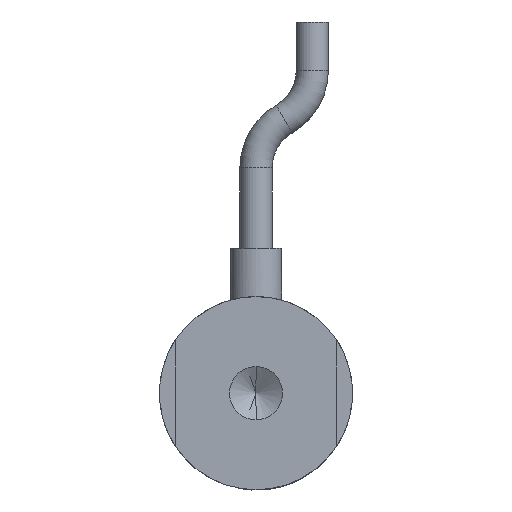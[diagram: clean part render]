
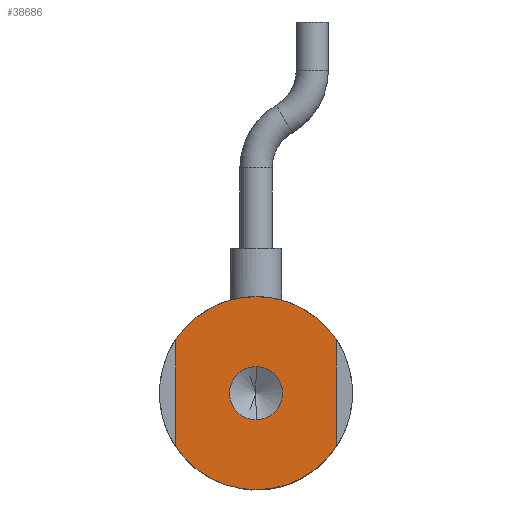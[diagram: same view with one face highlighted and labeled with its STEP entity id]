
A CAD part, front view. The second image highlights one B-rep face of the part: STEP entity #38686.
In plain terms, the highlighted planar face has unit normal (0, -1, 0).
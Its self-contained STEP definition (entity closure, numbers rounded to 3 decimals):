
#30 = CARTESIAN_POINT ( 'NONE',  ( 5., 0., -3.317 ) ) ;
#2606 = CARTESIAN_POINT ( 'NONE',  ( 0., 0., 0. ) ) ;
#2829 = AXIS2_PLACEMENT_3D ( 'NONE', #36470, #16550, #39848 ) ;
#3749 = CARTESIAN_POINT ( 'NONE',  ( 0., 0., 0. ) ) ;
#4436 = VERTEX_POINT ( 'NONE', #26939 ) ;
#4518 = CARTESIAN_POINT ( 'NONE',  ( 0., 0., 0. ) ) ;
#5177 = PLANE ( 'NONE',  #37243 ) ;
#5474 = CARTESIAN_POINT ( 'NONE',  ( 0., 0., -1.65 ) ) ;
#5510 = CARTESIAN_POINT ( 'NONE',  ( 0., 0., 1.65 ) ) ;
#5980 = DIRECTION ( 'NONE',  ( 0., 0., 1. ) ) ;
#7092 = DIRECTION ( 'NONE',  ( 0., 1., 0. ) ) ;
#7120 = VERTEX_POINT ( 'NONE', #16242 ) ;
#7164 = DIRECTION ( 'NONE',  ( 0., 0., -1. ) ) ;
#7207 = VERTEX_POINT ( 'NONE', #14352 ) ;
#7958 = DIRECTION ( 'NONE',  ( 0., 0., 1. ) ) ;
#8941 = CARTESIAN_POINT ( 'NONE',  ( 0., 0., -6. ) ) ;
#8977 = EDGE_LOOP ( 'NONE', ( #9700, #16987 ) ) ;
#9608 = CIRCLE ( 'NONE', #11398, 6. ) ;
#9700 = ORIENTED_EDGE ( 'NONE', *, *, #11700, .F. ) ;
#10585 = DIRECTION ( 'NONE',  ( 0., -1., 0. ) ) ;
#11125 = CIRCLE ( 'NONE', #37663, 6. ) ;
#11398 = AXIS2_PLACEMENT_3D ( 'NONE', #2606, #26078, #5980 ) ;
#11700 = EDGE_CURVE ( 'NONE', #23261, #26096, #20899, .T. ) ;
#13580 = VECTOR ( 'NONE', #29323, 1000. ) ;
#14186 = EDGE_CURVE ( 'NONE', #7207, #14272, #22398, .T. ) ;
#14272 = VERTEX_POINT ( 'NONE', #30 ) ;
#14352 = CARTESIAN_POINT ( 'NONE',  ( 5., 0., 3.317 ) ) ;
#15195 = DIRECTION ( 'NONE',  ( 0., 0., 1. ) ) ;
#15288 = EDGE_LOOP ( 'NONE', ( #29946, #43096, #35008, #40537, #38458, #41508 ) ) ;
#15399 = DIRECTION ( 'NONE',  ( 0., 0., 1. ) ) ;
#16242 = CARTESIAN_POINT ( 'NONE',  ( -5., 0., -3.317 ) ) ;
#16550 = DIRECTION ( 'NONE',  ( 0., 1., 0. ) ) ;
#16987 = ORIENTED_EDGE ( 'NONE', *, *, #34561, .F. ) ;
#17326 = AXIS2_PLACEMENT_3D ( 'NONE', #30490, #10585, #33840 ) ;
#20899 = CIRCLE ( 'NONE', #28990, 1.65 ) ;
#21915 = EDGE_CURVE ( 'NONE', #7120, #4436, #33757, .T. ) ;
#22398 = LINE ( 'NONE', #22607, #13580 ) ;
#22607 = CARTESIAN_POINT ( 'NONE',  ( 5., 0., 0. ) ) ;
#23261 = VERTEX_POINT ( 'NONE', #5474 ) ;
#25109 = CIRCLE ( 'NONE', #17326, 1.65 ) ;
#25608 = AXIS2_PLACEMENT_3D ( 'NONE', #4518, #28006, #7958 ) ;
#26078 = DIRECTION ( 'NONE',  ( 0., 1., 0. ) ) ;
#26096 = VERTEX_POINT ( 'NONE', #5510 ) ;
#26939 = CARTESIAN_POINT ( 'NONE',  ( -5., 0., 3.317 ) ) ;
#27184 = CARTESIAN_POINT ( 'NONE',  ( 0., 0., 0. ) ) ;
#27264 = DIRECTION ( 'NONE',  ( 0., -1., 0. ) ) ;
#28006 = DIRECTION ( 'NONE',  ( 0., 1., 0. ) ) ;
#28657 = CARTESIAN_POINT ( 'NONE',  ( 0., 0., 0. ) ) ;
#28990 = AXIS2_PLACEMENT_3D ( 'NONE', #3749, #27264, #7164 ) ;
#29323 = DIRECTION ( 'NONE',  ( 0., 0., -1. ) ) ;
#29443 = CIRCLE ( 'NONE', #25608, 6. ) ;
#29946 = ORIENTED_EDGE ( 'NONE', *, *, #21915, .F. ) ;
#30172 = FACE_BOUND ( 'NONE', #8977, .T. ) ;
#30349 = EDGE_CURVE ( 'NONE', #39527, #7207, #29443, .T. ) ;
#30485 = DIRECTION ( 'NONE',  ( 0., 0., 1. ) ) ;
#30490 = CARTESIAN_POINT ( 'NONE',  ( 0., 0., 0. ) ) ;
#30604 = EDGE_CURVE ( 'NONE', #14272, #38098, #9608, .T. ) ;
#31481 = EDGE_CURVE ( 'NONE', #38098, #7120, #39318, .T. ) ;
#32072 = CARTESIAN_POINT ( 'NONE',  ( -5., 0., 0. ) ) ;
#32713 = VECTOR ( 'NONE', #15195, 1000. ) ;
#33356 = EDGE_CURVE ( 'NONE', #4436, #39527, #11125, .T. ) ;
#33757 = LINE ( 'NONE', #32072, #32713 ) ;
#33840 = DIRECTION ( 'NONE',  ( 0., 0., -1. ) ) ;
#34561 = EDGE_CURVE ( 'NONE', #26096, #23261, #25109, .T. ) ;
#35008 = ORIENTED_EDGE ( 'NONE', *, *, #30604, .F. ) ;
#35300 = DIRECTION ( 'NONE',  ( 0., 1., 0. ) ) ;
#36470 = CARTESIAN_POINT ( 'NONE',  ( 0., 0., 0. ) ) ;
#37243 = AXIS2_PLACEMENT_3D ( 'NONE', #28657, #35300, #15399 ) ;
#37276 = CARTESIAN_POINT ( 'NONE',  ( 0., 0., 6. ) ) ;
#37663 = AXIS2_PLACEMENT_3D ( 'NONE', #27184, #7092, #30485 ) ;
#38098 = VERTEX_POINT ( 'NONE', #8941 ) ;
#38458 = ORIENTED_EDGE ( 'NONE', *, *, #30349, .F. ) ;
#38686 = ADVANCED_FACE ( 'NONE', ( #30172, #40103 ), #5177, .F. ) ;
#39318 = CIRCLE ( 'NONE', #2829, 6. ) ;
#39527 = VERTEX_POINT ( 'NONE', #37276 ) ;
#39848 = DIRECTION ( 'NONE',  ( 0., 0., 1. ) ) ;
#40103 = FACE_OUTER_BOUND ( 'NONE', #15288, .T. ) ;
#40537 = ORIENTED_EDGE ( 'NONE', *, *, #14186, .F. ) ;
#41508 = ORIENTED_EDGE ( 'NONE', *, *, #33356, .F. ) ;
#43096 = ORIENTED_EDGE ( 'NONE', *, *, #31481, .F. ) ;
